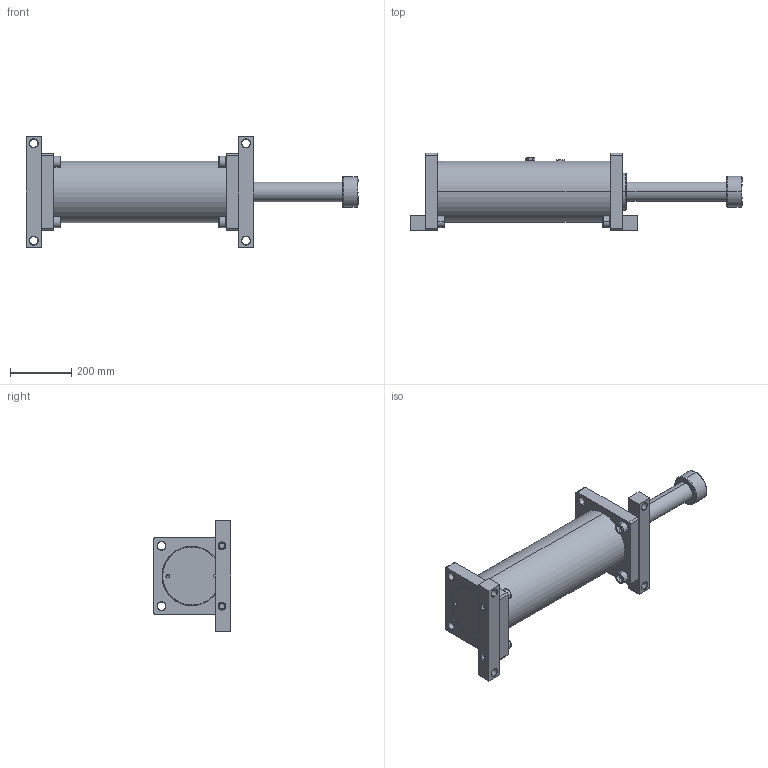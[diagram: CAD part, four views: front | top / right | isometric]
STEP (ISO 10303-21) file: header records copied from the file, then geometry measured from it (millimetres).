
FILE_DESCRIPTION (( 'STEP AP214' ), '1' );
FILE_NAME ('LDD4.0X12.STEP', '2019-01-16T08:44:38', ( 'user' ), ( 'Microsoft' ), 'SwSTEP 2.0', 'SolidWorks 2016', '' );
FILE_SCHEMA (( 'AUTOMOTIVE_DESIGN' ));
Length unit declared in the file: inch
Products named in the file (1): LDD4.0X12
Bounding box: 1082 x 251.5 x 360 mm (x, y, z)
Volume: 13511957.6 mm3; surface area: 1741316.7 mm2
Topology: 19 solids, 19 shells, 608 faces, 1351 edges, 808 vertices
Faces by surface type: cylinder 194, cone 169, plane 135, bspline 110
Entity records: 23811 total; most frequent: CARTESIAN_POINT 10242, DIRECTION 2915, ORIENTED_EDGE 2670, EDGE_CURVE 1335, AXIS2_PLACEMENT_3D 1201, VERTEX_POINT 808, EDGE_LOOP 703, CIRCLE 702
